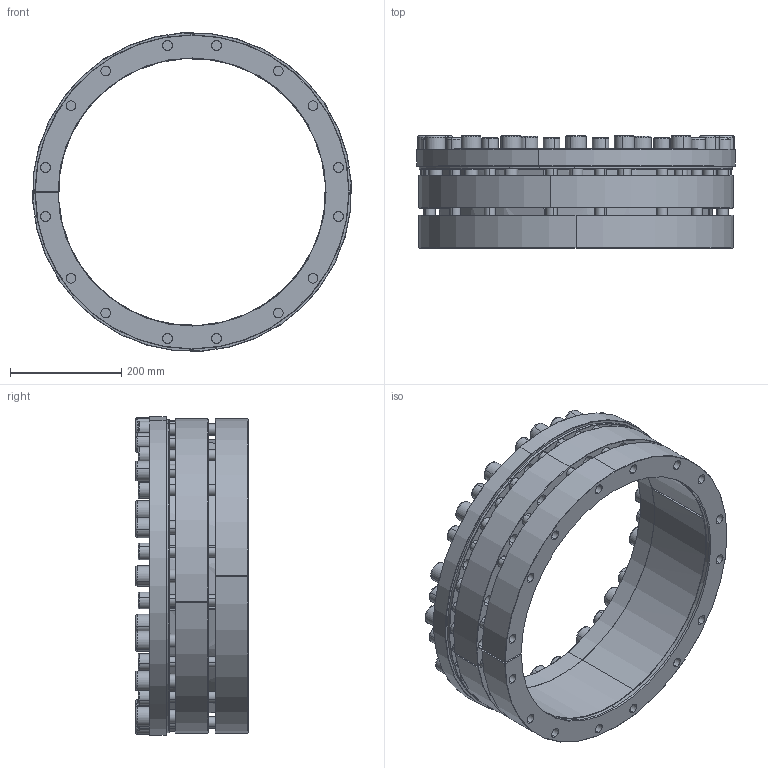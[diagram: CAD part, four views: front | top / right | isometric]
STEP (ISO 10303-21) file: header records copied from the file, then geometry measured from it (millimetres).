
FILE_DESCRIPTION (( 'STEP AP214' ), '1' );
FILE_NAME ('CONEX-P-480x565-P-018.step', '2015-11-30T21:15:09', ( '' ), ( '' ), 'SwSTEP 2.0', 'SolidWorks 2013', '' );
FILE_SCHEMA (( 'AUTOMOTIVE_DESIGN' ));
Length unit declared in the file: millimetre
Products named in the file (1): CONEX-P-480x565-P-018
Bounding box: 572.93 x 202 x 572.93 mm (x, y, z)
Volume: 11624003.3 mm3; surface area: 1917555.7 mm2
Topology: 35 solids, 35 shells, 1123 faces, 2583 edges, 1532 vertices
Faces by surface type: plane 502, cylinder 325, cone 166, torus 130
Entity records: 44276 total; most frequent: DIRECTION 5953, CARTESIAN_POINT 5291, ORIENTED_EDGE 5038, EDGE_CURVE 2519, AXIS2_PLACEMENT_3D 2338, VERTEX_POINT 1532, EDGE_LOOP 1365, VECTOR 1277
